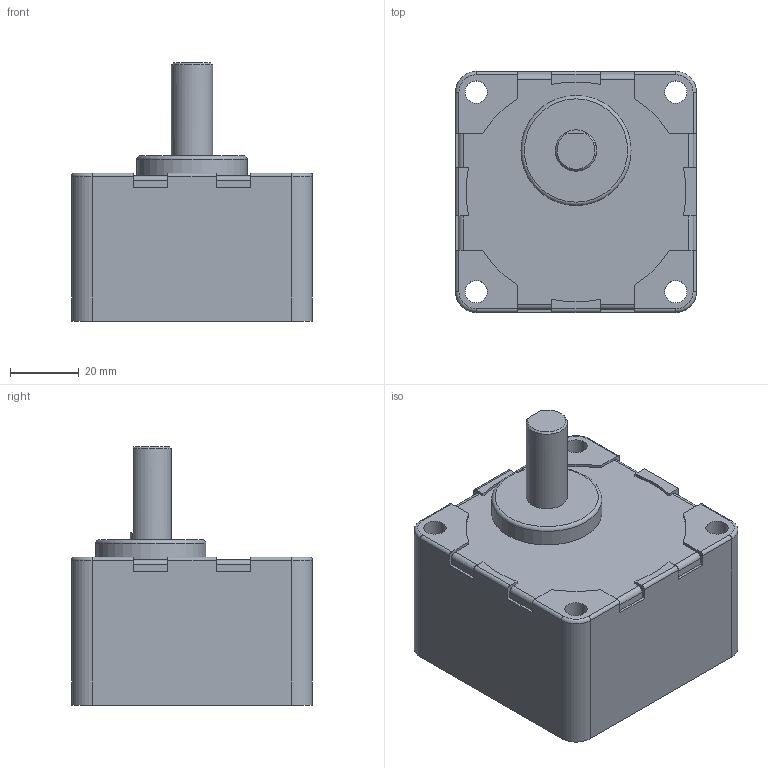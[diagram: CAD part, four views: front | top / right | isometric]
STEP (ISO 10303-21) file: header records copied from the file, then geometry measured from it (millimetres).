
FILE_DESCRIPTION(/* description */ (''),/* implementation_level */ '2;1');
FILE_NAME(/* name */ 'E:\도면작업\2016\0704) 미주향 SG 도면\3D GEAR HEAD\SG7DA5~120.stp',/* time_stamp */ '2016-07-22T14:01:45+09:00',/* author */ ('jy-jung'),/* organization */ (''),/* preprocessor_version */ 'ST-DEVELOPER v15.6',/* originating_system */ 'Autodesk Inventor 2015',/* authorisation */ '');
FILE_SCHEMA (('AUTOMOTIVE_DESIGN { 1 0 10303 214 3 1 1 }'));
Length unit declared in the file: millimetre
Products named in the file (1): SG7DA5~120
Bounding box: 70 x 70 x 75 mm (x, y, z)
Volume: 199554.4 mm3; surface area: 26932.5 mm2
Topology: 1 solids, 1 shells, 99 faces, 268 edges, 175 vertices
Faces by surface type: plane 52, cylinder 39, torus 5, cone 3
Full cylindrical faces by diameter (mm): 6.5 x4, 7.5 x1, 12 x1, 32 x1, 65 x1
Entity records: 3095 total; most frequent: DIRECTION 541, CARTESIAN_POINT 534, ORIENTED_EDGE 512, EDGE_CURVE 256, AXIS2_PLACEMENT_3D 187, VERTEX_POINT 174, LINE 167, VECTOR 167
